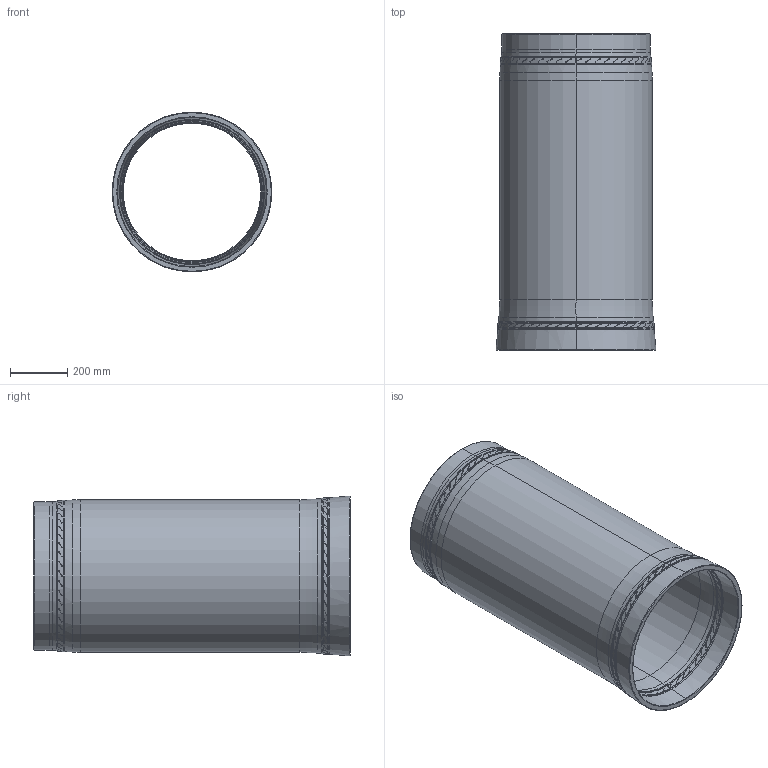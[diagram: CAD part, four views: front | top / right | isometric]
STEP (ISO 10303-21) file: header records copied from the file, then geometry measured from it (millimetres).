
FILE_DESCRIPTION(('CATIA V5 STEP Exchange','CAx-IF Rec.Pracs.--- Composite Materials ---3.4---2017-06-13'),'2;1');
FILE_NAME('C:\Users\PM610867\AppData\Local\ST-WORK_R32_PROD\Liasse-PDF\IEM_PEPSI_CEG_DEF_K_1229_210-TUBE_INTERMEDIAIRE-C.stp','2025-02-14T10:15:33+00:00',('none'),('none'),'CATIA Version 5-6 Release 2022 SP2','CATIA V5 STEP AP203 v2','none');
FILE_SCHEMA(('CONFIG_CONTROL_DESIGN'));
Length unit declared in the file: millimetre
Products named in the file (1): IEM PEPSI CEG DEF K 1229 210
Bounding box: 560 x 1107.5 x 560 mm (x, y, z)
Volume: 33648596.9 mm3; surface area: 4359478.4 mm2
Topology: 11 solids, 11 shells, 2822 faces, 6132 edges, 3304 vertices
Faces by surface type: bspline 1152, torus 784, cylinder 776, cone 104, revolution 4, plane 2
Entity records: 146068 total; most frequent: CARTESIAN_POINT 101590, ORIENTED_EDGE 12264, EDGE_CURVE 6132, DIRECTION 3766, VERTEX_POINT 3304, EDGE_LOOP 3200, B_SPLINE_CURVE_WITH_KNOTS 3080, ADVANCED_FACE 2822
